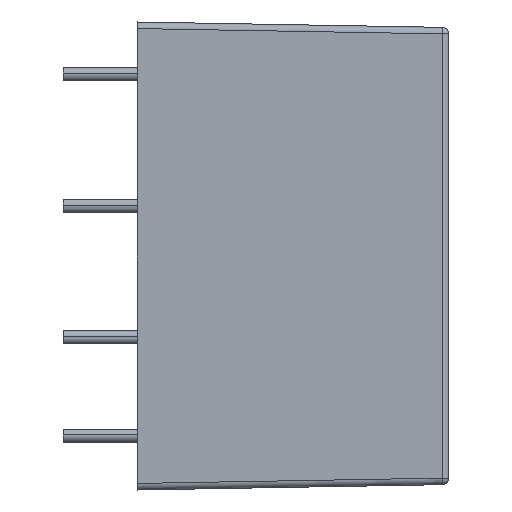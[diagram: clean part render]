
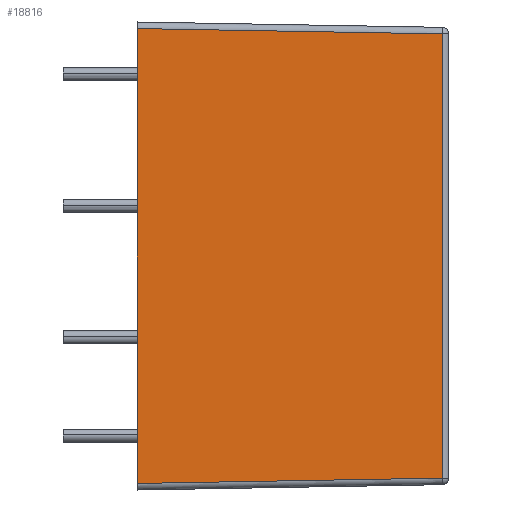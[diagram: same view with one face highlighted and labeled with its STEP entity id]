
A CAD part, left-side view. The second image highlights one B-rep face of the part: STEP entity #18816.
In plain terms, the highlighted planar face has unit normal (-1, -0.018, 0).
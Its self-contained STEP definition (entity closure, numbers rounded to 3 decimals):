
#655 = DIRECTION ( 'NONE',  ( -0.017, 1., 0.017 ) ) ;
#996 = CARTESIAN_POINT ( 'NONE',  ( -31.52, 0., 17.3 ) ) ;
#1850 = ORIENTED_EDGE ( 'NONE', *, *, #22764, .T. ) ;
#2311 = VERTEX_POINT ( 'NONE', #21405 ) ;
#3893 = CARTESIAN_POINT ( 'NONE',  ( -31.115, -23.209, 16.895 ) ) ;
#4220 = DIRECTION ( 'NONE',  ( 0.017, -1., 0. ) ) ;
#4440 = CARTESIAN_POINT ( 'NONE',  ( -31.52, 0., 17.8 ) ) ;
#5383 = CARTESIAN_POINT ( 'NONE',  ( -31.52, 0.009, 17.3 ) ) ;
#5694 = DIRECTION ( 'NONE',  ( 0.017, -1., 0.017 ) ) ;
#5732 = AXIS2_PLACEMENT_3D ( 'NONE', #18889, #16226, #4220 ) ;
#5869 = CARTESIAN_POINT ( 'NONE',  ( -31.509, -0.612, -17.289 ) ) ;
#7381 = EDGE_CURVE ( 'NONE', #2311, #11016, #27494, .T. ) ;
#7391 = VECTOR ( 'NONE', #5694, 1000. ) ;
#8275 = EDGE_CURVE ( 'NONE', #11016, #20268, #23968, .T. ) ;
#9270 = PLANE ( 'NONE',  #5732 ) ;
#9488 = DIRECTION ( 'NONE',  ( 0., 0., 1. ) ) ;
#11016 = VERTEX_POINT ( 'NONE', #18406 ) ;
#11446 = VECTOR ( 'NONE', #9488, 1000. ) ;
#12504 = LINE ( 'NONE', #5383, #18396 ) ;
#15077 = ORIENTED_EDGE ( 'NONE', *, *, #8275, .T. ) ;
#15999 = EDGE_CURVE ( 'NONE', #2311, #27637, #16439, .T. ) ;
#16226 = DIRECTION ( 'NONE',  ( -1., -0.017, 0. ) ) ;
#16439 = LINE ( 'NONE', #4440, #11446 ) ;
#16699 = CARTESIAN_POINT ( 'NONE',  ( -31.115, -23.209, 17.8 ) ) ;
#17468 = ORIENTED_EDGE ( 'NONE', *, *, #15999, .F. ) ;
#18396 = VECTOR ( 'NONE', #655, 1000. ) ;
#18406 = CARTESIAN_POINT ( 'NONE',  ( -31.115, -23.209, -16.895 ) ) ;
#18445 = DIRECTION ( 'NONE',  ( 0., 0., 1. ) ) ;
#18816 = ADVANCED_FACE ( 'NONE', ( #21262 ), #9270, .T. ) ;
#18889 = CARTESIAN_POINT ( 'NONE',  ( -31.52, 0., 17.8 ) ) ;
#20268 = VERTEX_POINT ( 'NONE', #3893 ) ;
#21262 = FACE_OUTER_BOUND ( 'NONE', #24980, .T. ) ;
#21405 = CARTESIAN_POINT ( 'NONE',  ( -31.52, 0., -17.3 ) ) ;
#21494 = VECTOR ( 'NONE', #18445, 1000. ) ;
#22764 = EDGE_CURVE ( 'NONE', #20268, #27637, #12504, .T. ) ;
#23968 = LINE ( 'NONE', #16699, #21494 ) ;
#24914 = ORIENTED_EDGE ( 'NONE', *, *, #7381, .T. ) ;
#24980 = EDGE_LOOP ( 'NONE', ( #15077, #1850, #17468, #24914 ) ) ;
#27494 = LINE ( 'NONE', #5869, #7391 ) ;
#27637 = VERTEX_POINT ( 'NONE', #996 ) ;
